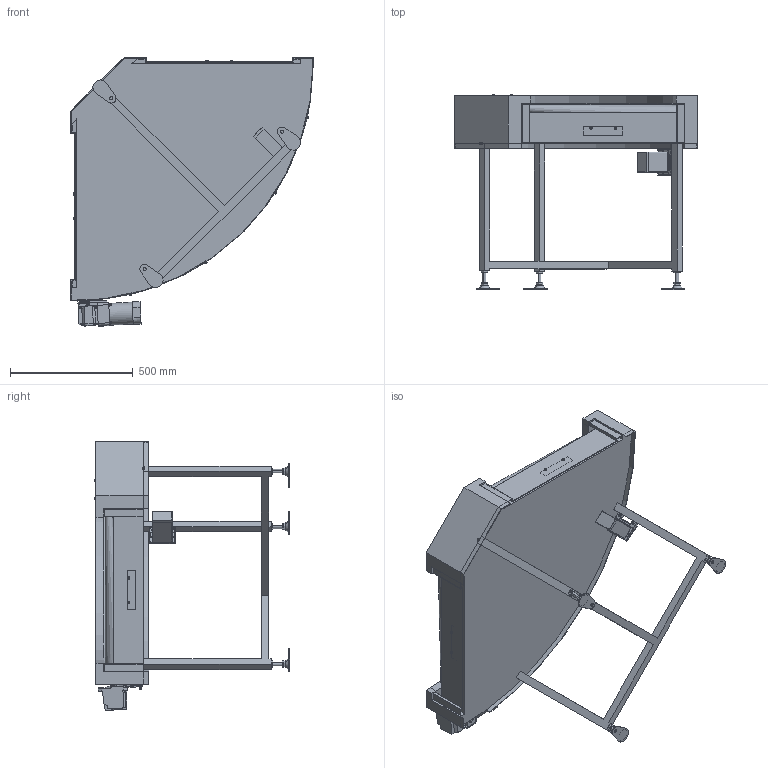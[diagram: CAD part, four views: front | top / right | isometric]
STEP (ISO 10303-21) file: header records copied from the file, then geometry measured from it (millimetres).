
FILE_DESCRIPTION (( 'STEP AP214' ), '1' );
FILE_NAME ('MBC2H-HS-309-600-90°-L-IV-60-O.STEP', '2024-01-16T23:46:47', ( '' ), ( '' ), 'SwSTEP 2.0', 'SolidWorks 2017', '' );
FILE_SCHEMA (( 'AUTOMOTIVE_DESIGN' ));
Length unit declared in the file: millimetre
Products named in the file (1): MBC2H-HS-309-600-90°-L-IV-60-O
Bounding box: 988.1 x 794.6 x 1093.45 mm (x, y, z)
Volume: 82940438.3 mm3; surface area: 4773917 mm2
Topology: 32 solids, 32 shells, 1029 faces, 2398 edges, 1512 vertices
Faces by surface type: plane 583, cylinder 280, cone 61, torus 54, bspline 41, sphere 10
Entity records: 32226 total; most frequent: CARTESIAN_POINT 8223, DIRECTION 4995, ORIENTED_EDGE 4740, EDGE_CURVE 2370, AXIS2_PLACEMENT_3D 1766, VERTEX_POINT 1512, VECTOR 1463, LINE 1463
